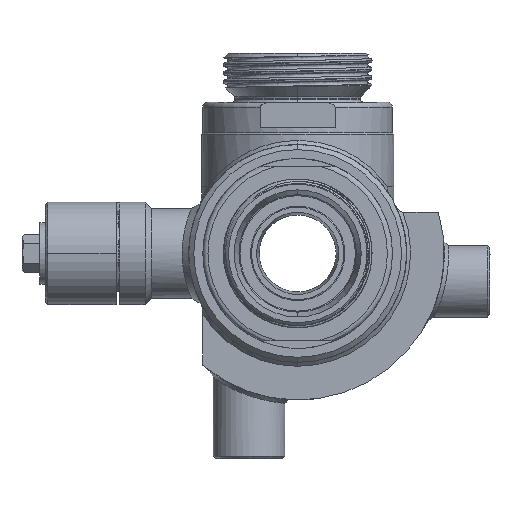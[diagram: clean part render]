
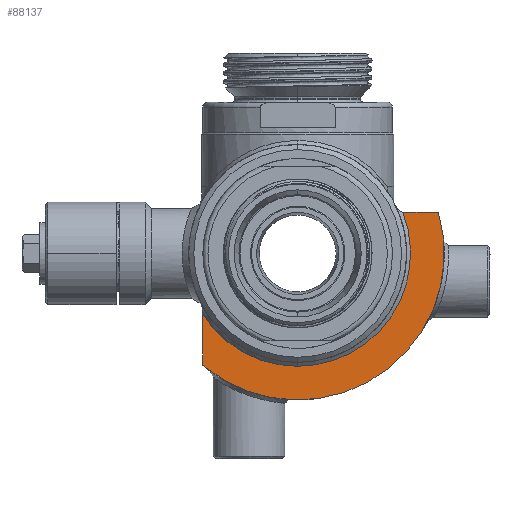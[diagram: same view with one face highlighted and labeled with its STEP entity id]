
A CAD part, left-side view. The second image highlights one B-rep face of the part: STEP entity #88137.
In plain terms, the highlighted planar face has unit normal (-1, 0, 0).
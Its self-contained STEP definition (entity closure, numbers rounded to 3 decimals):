
#3464=CARTESIAN_POINT('',(-43.,0.,0.));
#3465=DIRECTION('',(1.,0.,0.));
#3466=DIRECTION('',(0.,-0.932,0.364));
#3467=AXIS2_PLACEMENT_3D('',#3464,#3465,#3466);
#3472=DIRECTION('',(0.,-1.,0.));
#3473=VECTOR('',#3472,13.877);
#3474=CARTESIAN_POINT('',(-43.,-40.988,16.));
#3475=LINE('',#3474,#3473);
#3479=CARTESIAN_POINT('',(-43.,0.,0.));
#3480=DIRECTION('',(1.,0.,0.));
#3481=DIRECTION('',(0.,-0.96,0.28));
#3482=AXIS2_PLACEMENT_3D('',#3479,#3480,#3481);
#3487=DIRECTION('',(0.,0.,1.));
#3488=VECTOR('',#3487,19.744);
#3489=CARTESIAN_POINT('',(-43.,37.,-43.556));
#3490=LINE('',#3489,#3488);
#3494=CARTESIAN_POINT('',(-43.,0.,0.));
#3495=DIRECTION('',(1.,0.,0.));
#3496=DIRECTION('',(0.,0.,-1.));
#3497=AXIS2_PLACEMENT_3D('',#3494,#3495,#3496);
#85064=CARTESIAN_POINT('',(-43.,-54.865,16.));
#85065=CARTESIAN_POINT('',(-43.,37.,-43.556));
#85066=VERTEX_POINT('',#85064);
#85067=VERTEX_POINT('',#85065);
#85156=CARTESIAN_POINT('',(-43.,-40.988,16.));
#85157=CARTESIAN_POINT('',(-43.,0.,-44.));
#85158=VERTEX_POINT('',#85156);
#85159=VERTEX_POINT('',#85157);
#85160=CARTESIAN_POINT('',(-43.,37.,-23.812));
#85161=VERTEX_POINT('',#85160);
#88124=CARTESIAN_POINT('',(-43.,0.,0.));
#88125=DIRECTION('',(1.,0.,0.));
#88126=DIRECTION('',(0.,0.,-1.));
#88127=AXIS2_PLACEMENT_3D('',#88124,#88125,#88126);
#88128=PLANE('',#88127);
#88129=ORIENTED_EDGE('',*,*,#87644,.F.);
#88131=ORIENTED_EDGE('',*,*,#88130,.T.);
#88132=ORIENTED_EDGE('',*,*,#87859,.T.);
#88133=ORIENTED_EDGE('',*,*,#87817,.T.);
#88134=ORIENTED_EDGE('',*,*,#87618,.F.);
#88135=EDGE_LOOP('',(#88129,#88131,#88132,#88133,#88134));
#88136=FACE_OUTER_BOUND('',#88135,.F.);
#88137=ADVANCED_FACE('',(#88136),#88128,.F.);
#3468=CIRCLE('',#3467,44.);
#3483=CIRCLE('',#3482,57.15);
#3498=CIRCLE('',#3497,44.);
#87618=EDGE_CURVE('',#85159,#85161,#3498,.T.);
#87644=EDGE_CURVE('',#85158,#85159,#3468,.T.);
#87817=EDGE_CURVE('',#85067,#85161,#3490,.T.);
#87859=EDGE_CURVE('',#85066,#85067,#3483,.T.);
#88130=EDGE_CURVE('',#85158,#85066,#3475,.T.);
